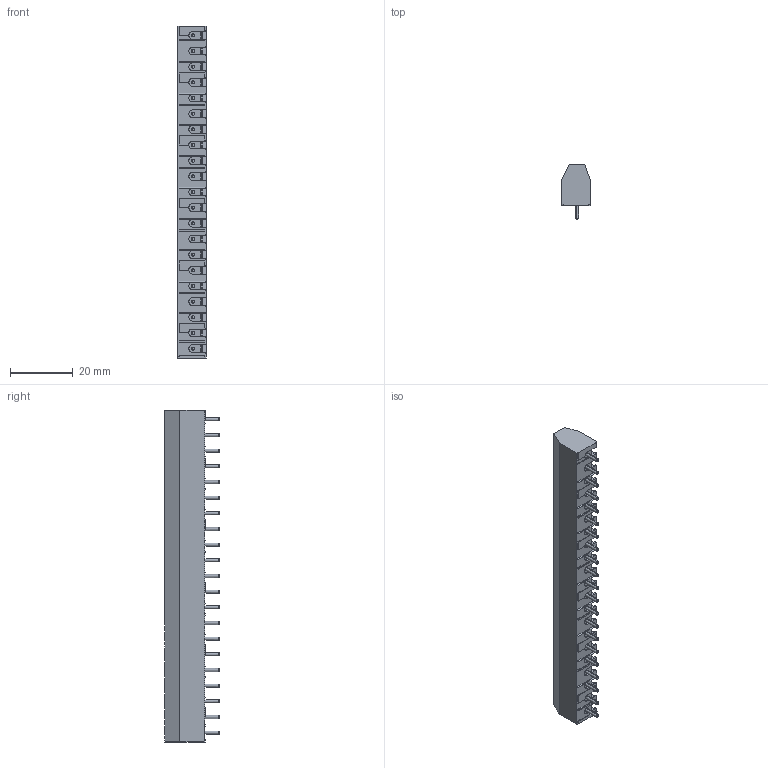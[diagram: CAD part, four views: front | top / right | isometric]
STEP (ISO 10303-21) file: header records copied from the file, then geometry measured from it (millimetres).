
FILE_DESCRIPTION (( 'STEP AP214' ), '1' );
FILE_NAME ('978-DS-21.STEP', '2008-03-02T03:49:51', ( ' ' ), ( '' ), 'SwSTEP 2.0', 'SolidWorks 2007', '' );
FILE_SCHEMA (( 'AUTOMOTIVE_DESIGN' ));
Length unit declared in the file: millimetre
Products named in the file (1): 978-DS-21
Bounding box: 9 x 17.4 x 106 mm (x, y, z)
Volume: 9745.4 mm3; surface area: 7190.9 mm2
Topology: 1 solids, 1 shells, 1597 faces, 4853 edges, 3200 vertices
Faces by surface type: plane 1150, cylinder 363, cone 84
Entity records: 55321 total; most frequent: CARTESIAN_POINT 11772, ORIENTED_EDGE 9706, DIRECTION 8439, EDGE_CURVE 4853, VECTOR 3371, LINE 3371, VERTEX_POINT 3200, AXIS2_PLACEMENT_3D 2534
